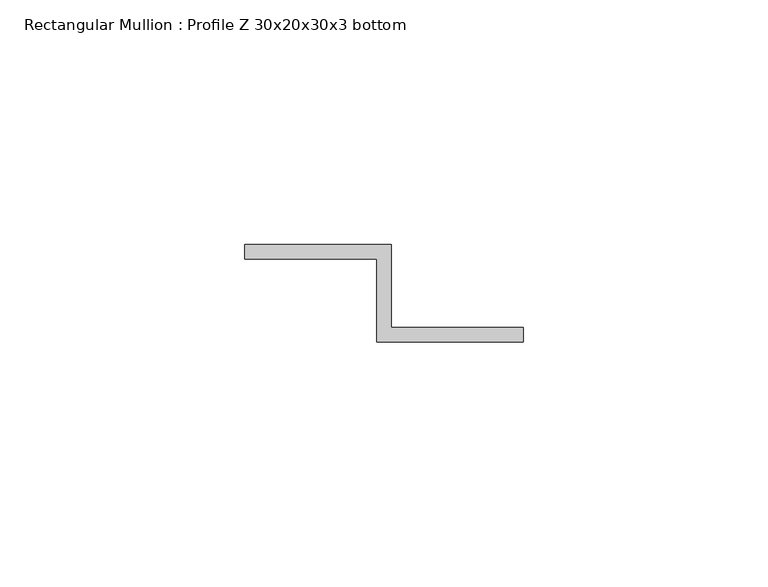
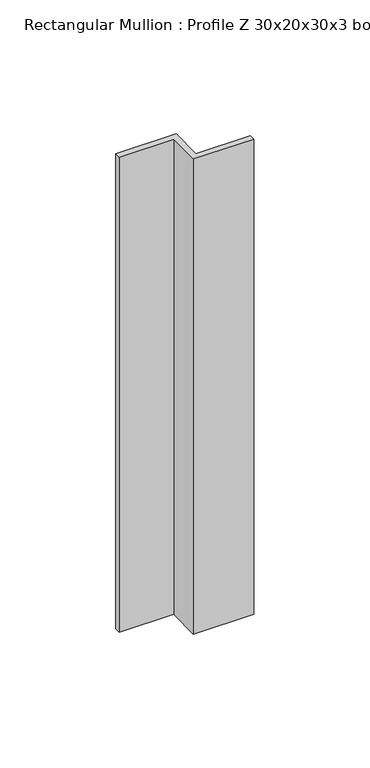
"""IFC4 building model written with IfcOpenShell, lengths in millimetres: member geometry, Rectangular Mullion : Profile Z 30x20x30x3 bottom."""

import ifcopenshell
import ifcopenshell.guid

model = None  # the IFC model being written
_history = None  # IfcOwnerHistory: only IFC2X3 demands one
_inside = {}  # id of a spatial element -> (the spatial element, [elements in it])
_under = {}  # id of a project, library or spatial element -> (it, [spatial elements below it])
_declared = {}  # id of a project -> (the project, [libraries it declares])
_typed = {}  # id of a type object -> (the type object, [elements of that type])
_made_of = {}  # id of a material, layer set ... -> (it, [elements and type objects made of it])


def new_model(schema):
    """Start an empty IFC model of exactly this schema.

    Asked for "IFC4X3", IfcOpenShell would pick the latest addendum, in which some entities
    have other attributes; the version numbers below select the first issue.
    IFC2X3 requires an IfcOwnerHistory on every rooted entity: one is made here for all.
    """
    global model, _history
    if schema == "IFC4X3":
        model = ifcopenshell.file(schema_version=(4, 3, 0, 0))
    else:
        model = ifcopenshell.file(schema=schema)
    _inside.clear()
    _under.clear()
    _declared.clear()
    _typed.clear()
    _made_of.clear()
    _history = None
    if model.schema == "IFC2X3":
        org = make("IfcOrganization", Name="unknown")
        user = make(
            "IfcPersonAndOrganization",
            ThePerson=make("IfcPerson", FamilyName="unknown"),
            TheOrganization=org,
        )
        app = make(
            "IfcApplication",
            ApplicationDeveloper=org,
            Version="unknown",
            ApplicationFullName="unknown",
            ApplicationIdentifier="unknown",
        )
        _history = make(
            "IfcOwnerHistory",
            OwningUser=user,
            OwningApplication=app,
            ChangeAction="ADDED",
            CreationDate=0,
        )
    return model


def make(cls, **values):
    """One entity of the class cls with the attributes given. An attribute that is None is left unset."""
    return model.create_entity(
        cls, **{name: value for name, value in values.items() if value is not None}
    )


def rooted(cls, **values):
    """An entity with a GlobalId (a new one), such as an element, a storey or a relation."""
    return make(cls, GlobalId=ifcopenshell.guid.new(), OwnerHistory=_history, **values)


def si_unit(unit_type, name, prefix=None):
    """IfcSIUnit, for example si_unit("LENGTHUNIT", "METRE", prefix="MILLI")."""
    return make("IfcSIUnit", UnitType=unit_type, Prefix=prefix, Name=name)


def assignment(units):
    """IfcUnitAssignment: the units of a project."""
    return None if units is None else make("IfcUnitAssignment", Units=units)


def point(xyz):
    """IfcCartesianPoint."""
    return None if xyz is None else make("IfcCartesianPoint", Coordinates=xyz)


def direction(xyz):
    """IfcDirection."""
    return None if xyz is None else make("IfcDirection", DirectionRatios=xyz)


def frame(location, z_axis=None, x_axis=None):
    """IfcAxis2Placement3D, a coordinate frame: its origin and axes. An axis left out is left unset."""
    return make(
        "IfcAxis2Placement3D",
        Location=point(location),
        Axis=direction(z_axis),
        RefDirection=direction(x_axis),
    )


def origin():
    """The frame at (0, 0, 0) with its axes left unset."""
    return frame((0.0, 0.0, 0.0))


def place(relative_to, where):
    """IfcLocalPlacement: puts the frame where relative to a parent placement (None: the world)."""
    return make(
        "IfcLocalPlacement", PlacementRelTo=relative_to, RelativePlacement=where
    )


def context(
    kind, dimensions, precision=None, world=None, true_north=None, identifier=None
):
    """IfcGeometricRepresentationContext, for example the 3D "Model" context."""
    return make(
        "IfcGeometricRepresentationContext",
        ContextIdentifier=identifier,
        ContextType=kind,
        CoordinateSpaceDimension=dimensions,
        Precision=precision,
        WorldCoordinateSystem=world,
        TrueNorth=true_north,
    )


def project(units=None, contexts=None):
    """IfcProject with its units and contexts."""
    return rooted(
        "IfcProject",
        Name="project",
        RepresentationContexts=contexts,
        UnitsInContext=assignment(units),
    )


def spatial(cls, under=None, at=None, **own):
    """A site, building, storey or space (cls), placed at a placement, below another one or the project."""
    s = rooted(cls, ObjectPlacement=at, **own)
    if under is not None:
        _under.setdefault(under.id(), (under, []))[1].append(s)
    return s


def polyline(points):
    """IfcPolyline through the points."""
    return make("IfcPolyline", Points=[point(p) for p in points])


def outline(outer, holes=None, kind="AREA"):
    """IfcArbitraryClosedProfileDef: a profile drawn as a closed curve; with holes, ...WithVoids."""
    if holes is None:
        return make("IfcArbitraryClosedProfileDef", ProfileType=kind, OuterCurve=outer)
    return make(
        "IfcArbitraryProfileDefWithVoids",
        ProfileType=kind,
        OuterCurve=outer,
        InnerCurves=holes,
    )


def extrude(swept, where, along, depth):
    """IfcExtrudedAreaSolid: the profile swept, set in the frame where, extruded along a direction by depth."""
    return make(
        "IfcExtrudedAreaSolid",
        SweptArea=swept,
        Position=where,
        ExtrudedDirection=direction(along),
        Depth=depth,
    )


def shape(context_of_items, identifier, shape_type, items):
    """IfcShapeRepresentation: the items that make up one representation, for example the "Body"."""
    return make(
        "IfcShapeRepresentation",
        ContextOfItems=context_of_items,
        RepresentationIdentifier=identifier,
        RepresentationType=shape_type,
        Items=items,
    )


def source(mapping_origin, context_of_items, identifier, shape_type, items):
    """IfcRepresentationMap: a shape defined once, which mapped items show again and again."""
    return make(
        "IfcRepresentationMap",
        MappingOrigin=mapping_origin,
        MappedRepresentation=shape(context_of_items, identifier, shape_type, items),
    )


def transform(
    local_origin,
    x_axis=None,
    y_axis=None,
    z_axis=None,
    scale=None,
    scale2=None,
    scale3=None,
    uniform=True,
):
    """IfcCartesianTransformationOperator3D, or its non-uniform kind. x_axis, y_axis, z_axis: its Axis1, 2, 3."""
    if uniform:
        return make(
            "IfcCartesianTransformationOperator3D",
            Axis1=direction(x_axis),
            Axis2=direction(y_axis),
            LocalOrigin=point(local_origin),
            Scale=scale,
            Axis3=direction(z_axis),
        )
    return make(
        "IfcCartesianTransformationOperator3DnonUniform",
        Axis1=direction(x_axis),
        Axis2=direction(y_axis),
        LocalOrigin=point(local_origin),
        Scale=scale,
        Axis3=direction(z_axis),
        Scale2=scale2,
        Scale3=scale3,
    )


def mapped(mapping_source, mapping_target):
    """IfcMappedItem: shows the shape of a source again, moved by a transform."""
    return make(
        "IfcMappedItem", MappingSource=mapping_source, MappingTarget=mapping_target
    )


def made_of(thing, what):
    """Note that an element or type object is made of a material, layer set ...; save() writes the relation."""
    if what is not None:
        _made_of.setdefault(what.id(), (what, []))[1].append(thing)
    return thing


def element(
    cls,
    number,
    at=None,
    inside=None,
    cuts=None,
    type_object=None,
    material=None,
    context=None,
    identifier="Body",
    shape_type=None,
    held_by="IfcProductDefinitionShape",
    body=None,
    shapes=None,
    **own,
):
    """One element of the class cls, such as IfcWall. Its Tag is "e" and its number.

    at: its placement. inside: the storey or other place that contains it. cuts: it is an
    opening in that element (IfcRelVoidsElement). A single representation is given by context,
    identifier, shape_type and body (its items); several are given by shapes. held_by: the class
    of the entity that holds the representations. save() writes the other relations.
    """
    e = rooted(cls, Tag="e%d" % number, ObjectPlacement=at, **own)
    if body is not None:
        shapes = [shape(context, identifier, shape_type, body)]
    if shapes is not None:
        e.Representation = make(held_by, Representations=shapes)
    if inside is not None:
        _inside.setdefault(inside.id(), (inside, []))[1].append(e)
    if cuts is not None:
        rooted(
            "IfcRelVoidsElement", RelatingBuildingElement=cuts, RelatedOpeningElement=e
        )
    if type_object is not None:
        _typed.setdefault(type_object.id(), (type_object, []))[1].append(e)
    return made_of(e, material)


def aggregate(whole, parts):
    """IfcRelAggregates: a whole, such as a stair, and the parts it consists of."""
    return rooted("IfcRelAggregates", RelatingObject=whole, RelatedObjects=parts)


def save(model, path):
    """Write the relations noted so far, then the file.

    IfcRelAggregates (storeys below a building ...), IfcRelContainedInSpatialStructure (elements
    in a storey), IfcRelDefinesByType, IfcRelAssociatesMaterial and IfcRelDeclares: one each for
    every whole, place, type object, material and project.
    """
    for whole, parts in _under.values():
        aggregate(whole, parts)
    for where, things in _inside.values():
        rooted(
            "IfcRelContainedInSpatialStructure",
            RelatedElements=things,
            RelatingStructure=where,
        )
    for kind, things in _typed.values():
        rooted("IfcRelDefinesByType", RelatedObjects=things, RelatingType=kind)
    for what, things in _made_of.values():
        rooted("IfcRelAssociatesMaterial", RelatedObjects=things, RelatingMaterial=what)
    for by, libraries in _declared.values():
        rooted("IfcRelDeclares", RelatingContext=by, RelatedDefinitions=libraries)
    model.write(path)


def rectangular_mullion_profile_z_30x20x30x3_bottom_9ee6513d(model_context):
    return source(origin(), model_context, "Body", "SweptSolid", [
        extrude(outline(polyline([(-30.5, -29.5), (-30.5, -46.5), (-3.5, -46.5), (-3.5, -49.5), (-33.5, -49.5), (-33.5, -32.5), (-60.5, -32.5), (-60.5, -29.5), (-30.5, -29.5)])), frame((0.0, 0.0, -250.0000002), z_axis=(0.0, 0.0, 1.0), x_axis=(1.0, 0.0, 0.0)), (0.0, 0.0, 1.0), 250.0000002),
    ])


if __name__ == "__main__":
    model = new_model("IFC4")
    model_context = context("Model", 3, world=origin())
    ifc_project = project(units=[si_unit("LENGTHUNIT", "METRE", prefix="MILLI")], contexts=[model_context])
    site = spatial("IfcSite", under=ifc_project)
    building = spatial("IfcBuilding", under=site)
    placement = place(None, origin())
    rectangular_mullion_profile_z_30x20x30x3_bottom_shape = rectangular_mullion_profile_z_30x20x30x3_bottom_9ee6513d(model_context)
    element("IfcMember", 1, ObjectType="Rectangular Mullion : Profile Z 30x20x30x3 bottom", at=placement, inside=building, context=model_context, shape_type="MappedRepresentation", body=[
        mapped(rectangular_mullion_profile_z_30x20x30x3_bottom_shape, transform((0.0, 0.0, 0.0), x_axis=(1.0, 0.0, 0.0), y_axis=(0.0, 1.0, 0.0), z_axis=(0.0, 0.0, 1.0))),
    ])
    save(model, "model.ifc")
